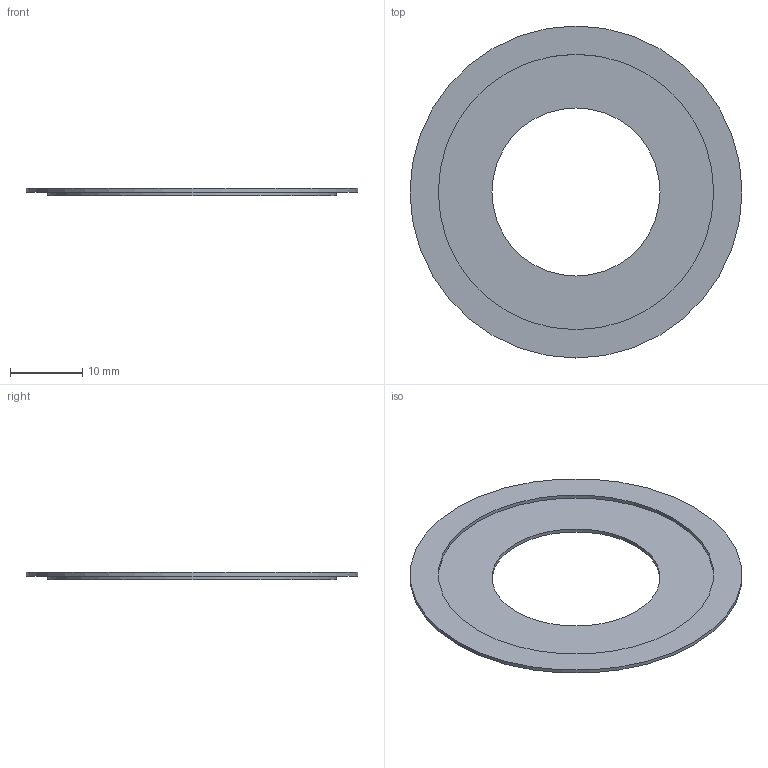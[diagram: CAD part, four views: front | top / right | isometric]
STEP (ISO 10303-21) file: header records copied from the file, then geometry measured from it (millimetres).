
FILE_DESCRIPTION(('Open CASCADE Model'),'2;1');
FILE_NAME('Open CASCADE Shape Model','2026-09-23T13:32:39',('Author'),( 'Open CASCADE'),'Open CASCADE STEP processor 7.9','Open CASCADE 7.9' ,'Unknown');
FILE_SCHEMA(('AUTOMOTIVE_DESIGN { 1 0 10303 214 1 1 1 1 }'));
Length unit declared in the file: millimetre
Products named in the file (1): Open CASCADE STEP translator 7.9 3
Bounding box: 45.8 x 45.8 x 1 mm (x, y, z)
Volume: 667.4 mm3; surface area: 2680.1 mm2
Topology: 1 solids, 1 shells, 8 faces, 12 edges, 8 vertices
Faces by surface type: plane 4, cylinder 4
Full cylindrical faces by diameter (mm): 23.2 x1, 38 x1, 39.8 x1, 45.8 x1
Entity records: 354 total; most frequent: DIRECTION 62, CARTESIAN_POINT 53, ORIENTED_EDGE 24, PCURVE 24, DEFINITIONAL_REPRESENTATION 24, LINE 20, VECTOR 20, AXIS2_PLACEMENT_3D 17
